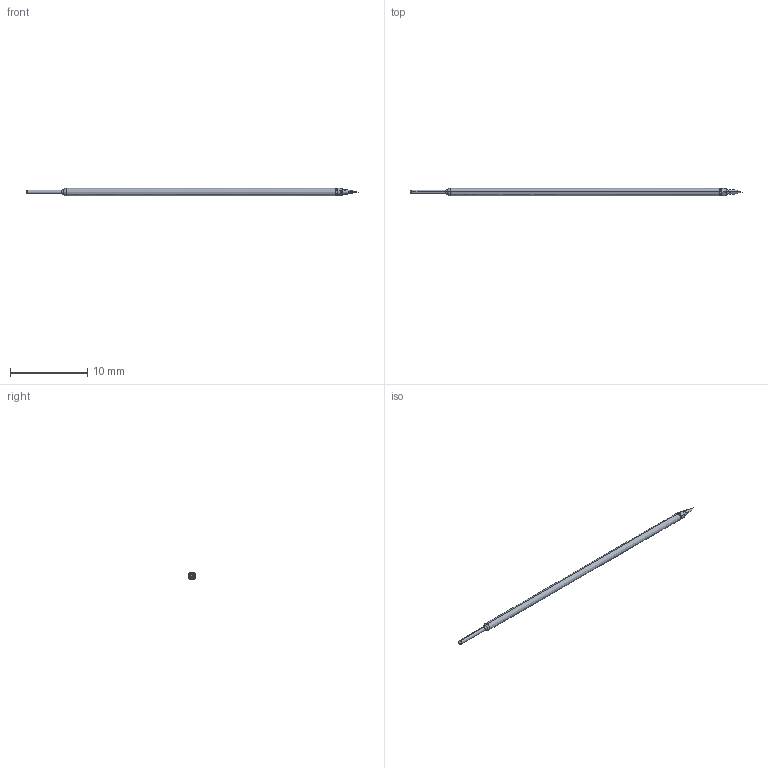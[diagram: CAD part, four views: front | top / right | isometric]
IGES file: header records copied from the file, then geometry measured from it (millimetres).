
Start section: SolidWorks IGES file using analytic representation for surfaces
Global section: file name: C:\Documents and Settings\mrumschlag\Desktop\changes\new\test\I35 FULL.IGS; native system: SolidWorks 2011; preprocessor: SolidWorks 2011; author: mrumschlag; date: 110630.142319; units: inch
Bounding box: 42.93 x 0.97 x 0.97 mm (x, y, z)
Surface area: 119.7 mm2 (no closed solid volume)
Topology: 0 solids, 0 shells, 46 faces, 302 edges, 300 vertices
Faces by surface type: bspline 23, revolution 23
